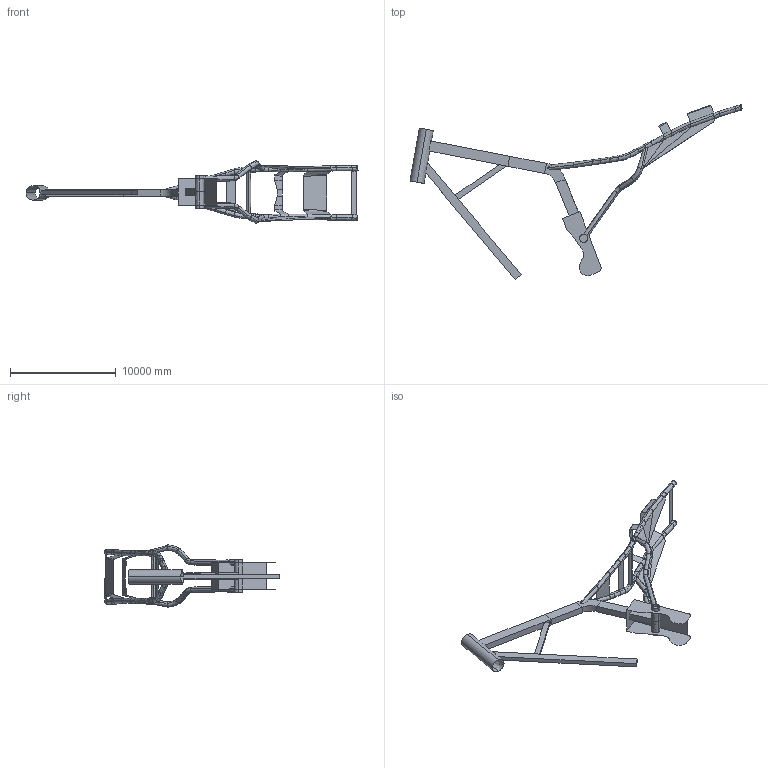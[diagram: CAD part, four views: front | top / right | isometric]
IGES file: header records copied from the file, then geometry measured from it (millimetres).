
Start section: the structure analysis of the moto_frame /COM,ANSYS RELEASE  9.0    UP20041104       18:25:36    08/09/2005 /NOPR /PREP7 /TITLE,the structure analysis of the moto_frame DOF,UX,UY,UZ,ROTX,ROTY,ROTZ, BFUNIF,TEMP,_TINY KUSE,0 TIME,0.00000000 TREF,0.00000000 ALPHAD,0.00000000 BETAD,0.00000000 DMPRAT,0.00000000 CRPLIM,0.100000000,0 CRPLIM,0.00000000,1 NCNV,1,0.00000000,0,0.00000000,0.00000000 NEQIT,0 E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
Global section: file name: EX5.iges; native system: ANSYS; preprocessor:   9.0      UP20041104; date: 000809.182536
Bounding box: 31389 x 16550.49 x 5876.17 mm (x, y, z)
Surface area: 301477620.2 mm2 (no closed solid volume)
Topology: 0 solids, 0 shells, 303 faces, 1426 edges, 1426 vertices
Faces by surface type: bspline 303
